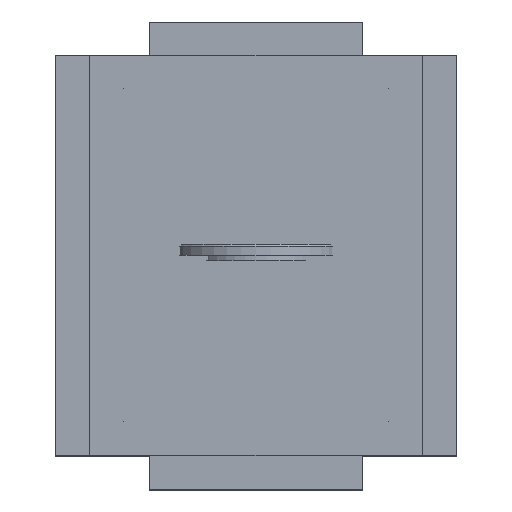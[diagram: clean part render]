
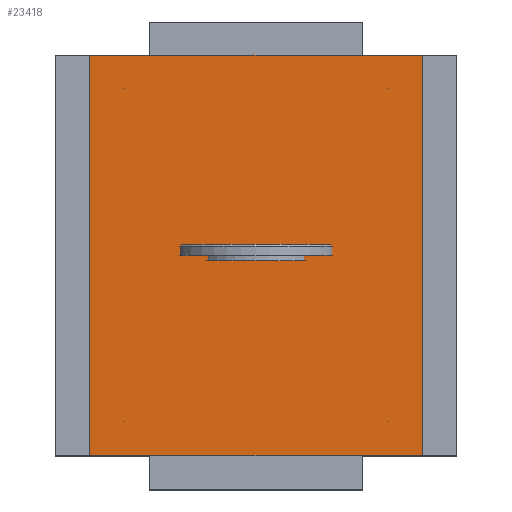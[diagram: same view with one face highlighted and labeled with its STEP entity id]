
A CAD part, top view. The second image highlights one B-rep face of the part: STEP entity #23418.
In plain terms, the highlighted planar face has unit normal (0, 0, 1).
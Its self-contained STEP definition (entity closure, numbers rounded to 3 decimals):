
#23104 = VERTEX_POINT('',#23105);
#23105 = CARTESIAN_POINT('',(-123.,-148.,402.));
#23112 = PLANE('',#23113);
#23113 = AXIS2_PLACEMENT_3D('',#23114,#23115,#23116);
#23114 = CARTESIAN_POINT('',(-123.,-148.,392.));
#23115 = DIRECTION('',(1.,0.,0.));
#23116 = DIRECTION('',(0.,0.,1.));
#23124 = PLANE('',#23125);
#23125 = AXIS2_PLACEMENT_3D('',#23126,#23127,#23128);
#23126 = CARTESIAN_POINT('',(-123.,-148.,392.));
#23127 = DIRECTION('',(0.,1.,0.));
#23128 = DIRECTION('',(0.,0.,1.));
#23165 = VERTEX_POINT('',#23166);
#23166 = CARTESIAN_POINT('',(-123.,148.,402.));
#23180 = PLANE('',#23181);
#23181 = AXIS2_PLACEMENT_3D('',#23182,#23183,#23184);
#23182 = CARTESIAN_POINT('',(-123.,148.,392.));
#23183 = DIRECTION('',(0.,1.,0.));
#23184 = DIRECTION('',(0.,0.,1.));
#23192 = EDGE_CURVE('',#23104,#23165,#23193,.T.);
#23193 = SURFACE_CURVE('',#23194,(#23198,#23205),.PCURVE_S1.);
#23194 = LINE('',#23195,#23196);
#23195 = CARTESIAN_POINT('',(-123.,-148.,402.));
#23196 = VECTOR('',#23197,1.);
#23197 = DIRECTION('',(0.,1.,0.));
#23198 = PCURVE('',#23112,#23199);
#23199 = DEFINITIONAL_REPRESENTATION('',(#23200),#23204);
#23200 = LINE('',#23201,#23202);
#23201 = CARTESIAN_POINT('',(10.,0.));
#23202 = VECTOR('',#23203,1.);
#23203 = DIRECTION('',(0.,-1.));
#23204 = ( GEOMETRIC_REPRESENTATION_CONTEXT(2) 
PARAMETRIC_REPRESENTATION_CONTEXT() REPRESENTATION_CONTEXT('2D SPACE',''
  ) );
#23205 = PCURVE('',#23206,#23211);
#23206 = PLANE('',#23207);
#23207 = AXIS2_PLACEMENT_3D('',#23208,#23209,#23210);
#23208 = CARTESIAN_POINT('',(-123.,-148.,402.));
#23209 = DIRECTION('',(0.,0.,1.));
#23210 = DIRECTION('',(1.,0.,0.));
#23211 = DEFINITIONAL_REPRESENTATION('',(#23212),#23216);
#23212 = LINE('',#23213,#23214);
#23213 = CARTESIAN_POINT('',(0.,0.));
#23214 = VECTOR('',#23215,1.);
#23215 = DIRECTION('',(0.,1.));
#23216 = ( GEOMETRIC_REPRESENTATION_CONTEXT(2) 
PARAMETRIC_REPRESENTATION_CONTEXT() REPRESENTATION_CONTEXT('2D SPACE',''
  ) );
#23224 = VERTEX_POINT('',#23225);
#23225 = CARTESIAN_POINT('',(123.,-148.,402.));
#23232 = PLANE('',#23233);
#23233 = AXIS2_PLACEMENT_3D('',#23234,#23235,#23236);
#23234 = CARTESIAN_POINT('',(123.,-148.,392.));
#23235 = DIRECTION('',(1.,0.,0.));
#23236 = DIRECTION('',(0.,0.,1.));
#23275 = VERTEX_POINT('',#23276);
#23276 = CARTESIAN_POINT('',(123.,148.,402.));
#23297 = EDGE_CURVE('',#23224,#23275,#23298,.T.);
#23298 = SURFACE_CURVE('',#23299,(#23303,#23310),.PCURVE_S1.);
#23299 = LINE('',#23300,#23301);
#23300 = CARTESIAN_POINT('',(123.,-148.,402.));
#23301 = VECTOR('',#23302,1.);
#23302 = DIRECTION('',(0.,1.,0.));
#23303 = PCURVE('',#23232,#23304);
#23304 = DEFINITIONAL_REPRESENTATION('',(#23305),#23309);
#23305 = LINE('',#23306,#23307);
#23306 = CARTESIAN_POINT('',(10.,0.));
#23307 = VECTOR('',#23308,1.);
#23308 = DIRECTION('',(0.,-1.));
#23309 = ( GEOMETRIC_REPRESENTATION_CONTEXT(2) 
PARAMETRIC_REPRESENTATION_CONTEXT() REPRESENTATION_CONTEXT('2D SPACE',''
  ) );
#23310 = PCURVE('',#23206,#23311);
#23311 = DEFINITIONAL_REPRESENTATION('',(#23312),#23316);
#23312 = LINE('',#23313,#23314);
#23313 = CARTESIAN_POINT('',(246.,0.));
#23314 = VECTOR('',#23315,1.);
#23315 = DIRECTION('',(0.,1.));
#23316 = ( GEOMETRIC_REPRESENTATION_CONTEXT(2) 
PARAMETRIC_REPRESENTATION_CONTEXT() REPRESENTATION_CONTEXT('2D SPACE',''
  ) );
#23343 = EDGE_CURVE('',#23104,#23224,#23344,.T.);
#23344 = SURFACE_CURVE('',#23345,(#23349,#23356),.PCURVE_S1.);
#23345 = LINE('',#23346,#23347);
#23346 = CARTESIAN_POINT('',(-123.,-148.,402.));
#23347 = VECTOR('',#23348,1.);
#23348 = DIRECTION('',(1.,0.,0.));
#23349 = PCURVE('',#23124,#23350);
#23350 = DEFINITIONAL_REPRESENTATION('',(#23351),#23355);
#23351 = LINE('',#23352,#23353);
#23352 = CARTESIAN_POINT('',(10.,0.));
#23353 = VECTOR('',#23354,1.);
#23354 = DIRECTION('',(0.,1.));
#23355 = ( GEOMETRIC_REPRESENTATION_CONTEXT(2) 
PARAMETRIC_REPRESENTATION_CONTEXT() REPRESENTATION_CONTEXT('2D SPACE',''
  ) );
#23356 = PCURVE('',#23206,#23357);
#23357 = DEFINITIONAL_REPRESENTATION('',(#23358),#23362);
#23358 = LINE('',#23359,#23360);
#23359 = CARTESIAN_POINT('',(0.,0.));
#23360 = VECTOR('',#23361,1.);
#23361 = DIRECTION('',(1.,0.));
#23362 = ( GEOMETRIC_REPRESENTATION_CONTEXT(2) 
PARAMETRIC_REPRESENTATION_CONTEXT() REPRESENTATION_CONTEXT('2D SPACE',''
  ) );
#23390 = EDGE_CURVE('',#23165,#23275,#23391,.T.);
#23391 = SURFACE_CURVE('',#23392,(#23396,#23403),.PCURVE_S1.);
#23392 = LINE('',#23393,#23394);
#23393 = CARTESIAN_POINT('',(-123.,148.,402.));
#23394 = VECTOR('',#23395,1.);
#23395 = DIRECTION('',(1.,0.,0.));
#23396 = PCURVE('',#23180,#23397);
#23397 = DEFINITIONAL_REPRESENTATION('',(#23398),#23402);
#23398 = LINE('',#23399,#23400);
#23399 = CARTESIAN_POINT('',(10.,0.));
#23400 = VECTOR('',#23401,1.);
#23401 = DIRECTION('',(0.,1.));
#23402 = ( GEOMETRIC_REPRESENTATION_CONTEXT(2) 
PARAMETRIC_REPRESENTATION_CONTEXT() REPRESENTATION_CONTEXT('2D SPACE',''
  ) );
#23403 = PCURVE('',#23206,#23404);
#23404 = DEFINITIONAL_REPRESENTATION('',(#23405),#23409);
#23405 = LINE('',#23406,#23407);
#23406 = CARTESIAN_POINT('',(0.,296.));
#23407 = VECTOR('',#23408,1.);
#23408 = DIRECTION('',(1.,0.));
#23409 = ( GEOMETRIC_REPRESENTATION_CONTEXT(2) 
PARAMETRIC_REPRESENTATION_CONTEXT() REPRESENTATION_CONTEXT('2D SPACE',''
  ) );
#23418 = ADVANCED_FACE('',(#23419),#23206,.T.);
#23419 = FACE_BOUND('',#23420,.T.);
#23420 = EDGE_LOOP('',(#23421,#23422,#23423,#23424));
#23421 = ORIENTED_EDGE('',*,*,#23192,.F.);
#23422 = ORIENTED_EDGE('',*,*,#23343,.T.);
#23423 = ORIENTED_EDGE('',*,*,#23297,.T.);
#23424 = ORIENTED_EDGE('',*,*,#23390,.F.);
